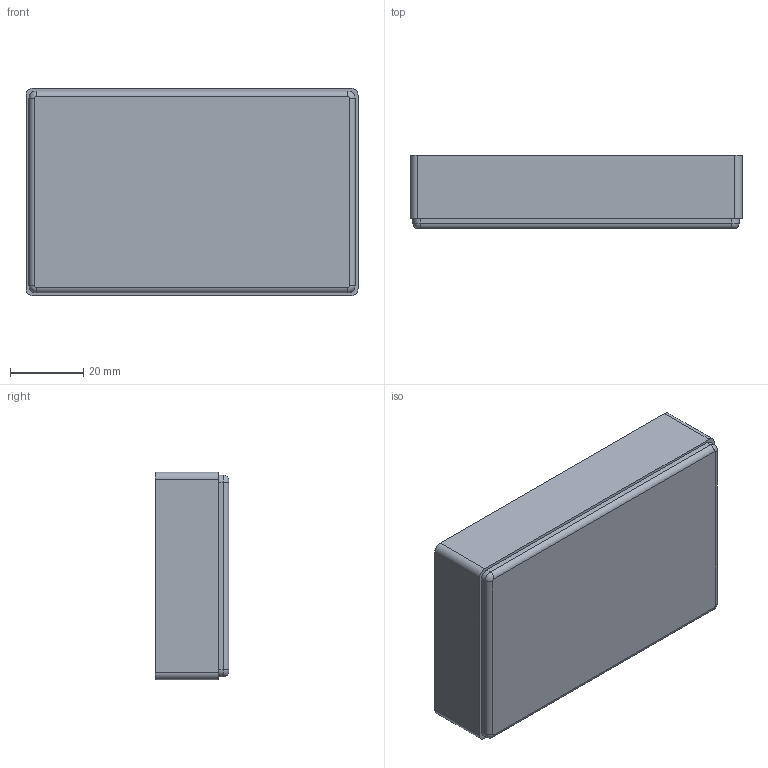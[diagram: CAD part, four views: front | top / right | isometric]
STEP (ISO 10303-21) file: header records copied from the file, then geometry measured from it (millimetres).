
FILE_DESCRIPTION (( 'STEP AP214' ), '1' );
FILE_NAME ('Cos PP25.STEP', '2019-10-23T12:52:00', ( 'aaa' ), ( '' ), 'SwSTEP 2.0', 'SolidWorks 2014', '' );
FILE_SCHEMA (( 'AUTOMOTIVE_DESIGN' ));
Length unit declared in the file: millimetre
Products named in the file (1): Cos PP25
Bounding box: 90.4 x 20 x 56.6 mm (x, y, z)
Volume: 20516.5 mm3; surface area: 21196.5 mm2
Topology: 1 solids, 1 shells, 57 faces, 130 edges, 84 vertices
Faces by surface type: cylinder 30, plane 23, torus 4
Entity records: 1658 total; most frequent: DIRECTION 310, CARTESIAN_POINT 272, ORIENTED_EDGE 260, EDGE_CURVE 130, AXIS2_PLACEMENT_3D 122, VERTEX_POINT 84, LINE 66, EDGE_LOOP 66
